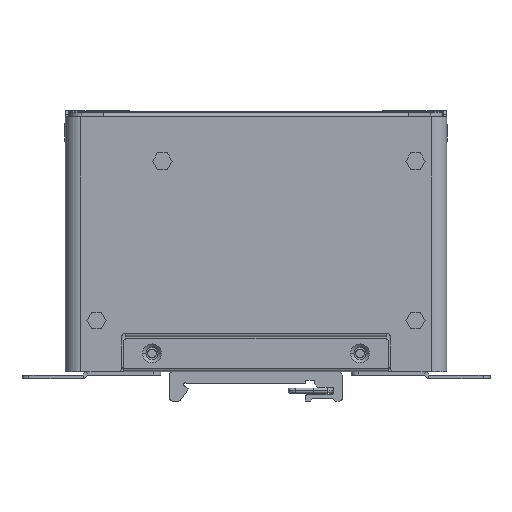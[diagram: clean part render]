
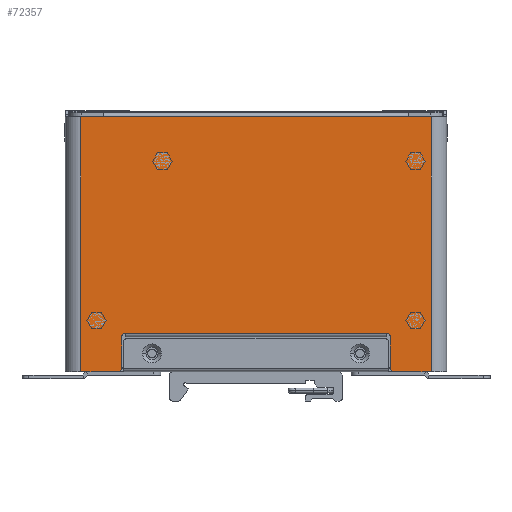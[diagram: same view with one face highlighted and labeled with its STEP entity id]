
A CAD part, front view. The second image highlights one B-rep face of the part: STEP entity #72357.
In plain terms, the highlighted planar face has unit normal (0, -1, 0) as drawn and (0, 1, 0) by its records, which use the part's own axes.
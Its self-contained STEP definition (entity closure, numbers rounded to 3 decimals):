
#67346=CARTESIAN_POINT('',(-37.75,1.,-26.9));
#67347=DIRECTION('',(0.,-1.,0.));
#67348=DIRECTION('',(0.,0.,1.));
#67349=AXIS2_PLACEMENT_3D('',#67346,#67347,#67348);
#67483=CARTESIAN_POINT('',(37.75,1.,-26.9));
#67484=DIRECTION('',(0.,-1.,0.));
#67485=DIRECTION('',(1.,0.,0.));
#67486=AXIS2_PLACEMENT_3D('',#67483,#67484,#67485);
#67527=DIRECTION('',(0.,0.,1.));
#67528=VECTOR('',#67527,73.5);
#67529=CARTESIAN_POINT('',(50.5,1.,-36.9));
#67530=LINE('',#67529,#67528);
#68045=DIRECTION('',(1.,0.,0.));
#68046=VECTOR('',#68045,6.5);
#68047=CARTESIAN_POINT('',(44.,1.,36.6));
#68048=LINE('',#68047,#68046);
#68059=CARTESIAN_POINT('',(-39.75,1.,-35.9));
#68060=DIRECTION('',(0.,1.,0.));
#68061=DIRECTION('',(1.,0.,0.));
#68062=AXIS2_PLACEMENT_3D('',#68059,#68060,#68061);
#68067=DIRECTION('',(0.,0.,1.));
#68068=VECTOR('',#68067,9.);
#68069=CARTESIAN_POINT('',(-38.75,1.,-35.9));
#68070=LINE('',#68069,#68068);
#68074=DIRECTION('',(0.,0.,1.));
#68075=VECTOR('',#68074,9.);
#68076=CARTESIAN_POINT('',(38.75,1.,-35.9));
#68077=LINE('',#68076,#68075);
#68081=CARTESIAN_POINT('',(39.75,1.,-35.9));
#68082=DIRECTION('',(0.,1.,0.));
#68083=DIRECTION('',(0.,0.,-1.));
#68084=AXIS2_PLACEMENT_3D('',#68081,#68082,#68083);
#68089=DIRECTION('',(-1.,0.,0.));
#68090=VECTOR('',#68089,10.75);
#68091=CARTESIAN_POINT('',(50.5,1.,-36.9));
#68092=LINE('',#68091,#68090);
#68096=DIRECTION('',(-1.,0.,0.));
#68097=VECTOR('',#68096,10.75);
#68098=CARTESIAN_POINT('',(-39.75,1.,-36.9));
#68099=LINE('',#68098,#68097);
#68111=DIRECTION('',(1.,0.,0.));
#68112=VECTOR('',#68111,75.5);
#68113=CARTESIAN_POINT('',(-37.75,1.,-25.9));
#68114=LINE('',#68113,#68112);
#68133=DIRECTION('',(-1.,0.,0.));
#68134=VECTOR('',#68133,88.);
#68135=CARTESIAN_POINT('',(44.,1.,36.6));
#68136=LINE('',#68135,#68134);
#70446=DIRECTION('',(1.,0.,0.));
#70447=VECTOR('',#70446,6.5);
#70448=CARTESIAN_POINT('',(-50.5,1.,36.6));
#70449=LINE('',#70448,#70447);
#70527=DIRECTION('',(0.,0.,-1.));
#70528=VECTOR('',#70527,73.5);
#70529=CARTESIAN_POINT('',(-50.5,1.,36.6));
#70530=LINE('',#70529,#70528);
#70997=CARTESIAN_POINT('',(-44.,1.,36.6));
#70998=VERTEX_POINT('',#70997);
#70999=CARTESIAN_POINT('',(44.,1.,36.6));
#71000=VERTEX_POINT('',#70999);
#71050=CARTESIAN_POINT('',(-50.5,1.,-36.9));
#71052=VERTEX_POINT('',#71050);
#71058=CARTESIAN_POINT('',(50.5,1.,-36.9));
#71060=VERTEX_POINT('',#71058);
#71074=CARTESIAN_POINT('',(-50.5,1.,36.6));
#71076=VERTEX_POINT('',#71074);
#71078=CARTESIAN_POINT('',(50.5,1.,36.6));
#71080=VERTEX_POINT('',#71078);
#71501=CARTESIAN_POINT('',(37.75,1.,-25.9));
#71502=VERTEX_POINT('',#71501);
#71504=CARTESIAN_POINT('',(38.75,1.,-26.9));
#71506=VERTEX_POINT('',#71504);
#71508=CARTESIAN_POINT('',(-38.75,1.,-26.9));
#71510=VERTEX_POINT('',#71508);
#71511=CARTESIAN_POINT('',(-37.75,1.,-25.9));
#71512=VERTEX_POINT('',#71511);
#71517=CARTESIAN_POINT('',(-38.75,1.,-35.9));
#71518=VERTEX_POINT('',#71517);
#71519=CARTESIAN_POINT('',(-39.75,1.,-36.9));
#71520=VERTEX_POINT('',#71519);
#71525=CARTESIAN_POINT('',(39.75,1.,-36.9));
#71526=VERTEX_POINT('',#71525);
#71527=CARTESIAN_POINT('',(38.75,1.,-35.9));
#71528=VERTEX_POINT('',#71527);
#72331=CARTESIAN_POINT('',(0.,1.,0.));
#72332=DIRECTION('',(0.,1.,0.));
#72333=DIRECTION('',(1.,0.,0.));
#72334=AXIS2_PLACEMENT_3D('',#72331,#72332,#72333);
#72335=PLANE('',#72334);
#72336=ORIENTED_EDGE('',*,*,#71645,.F.);
#72337=ORIENTED_EDGE('',*,*,#71661,.T.);
#72338=ORIENTED_EDGE('',*,*,#71675,.F.);
#72340=ORIENTED_EDGE('',*,*,#72339,.T.);
#72341=ORIENTED_EDGE('',*,*,#71813,.F.);
#72342=ORIENTED_EDGE('',*,*,#71825,.F.);
#72343=ORIENTED_EDGE('',*,*,#71840,.F.);
#72344=ORIENTED_EDGE('',*,*,#71855,.F.);
#72345=ORIENTED_EDGE('',*,*,#71882,.T.);
#72346=ORIENTED_EDGE('',*,*,#72322,.F.);
#72348=ORIENTED_EDGE('',*,*,#72347,.T.);
#72350=ORIENTED_EDGE('',*,*,#72349,.F.);
#72352=ORIENTED_EDGE('',*,*,#72351,.T.);
#72354=ORIENTED_EDGE('',*,*,#72353,.F.);
#72355=EDGE_LOOP('',(#72336,#72337,#72338,#72340,#72341,#72342,#72343,#72344,
#72345,#72346,#72348,#72350,#72352,#72354));
#72356=FACE_OUTER_BOUND('',#72355,.F.);
#72357=ADVANCED_FACE('',(#72356),#72335,.T.);
#67350=CIRCLE('',#67349,1.);
#67487=CIRCLE('',#67486,1.);
#68063=CIRCLE('',#68062,1.);
#68085=CIRCLE('',#68084,1.);
#71645=EDGE_CURVE('',#71518,#71520,#68063,.T.);
#71661=EDGE_CURVE('',#71518,#71510,#68070,.T.);
#71675=EDGE_CURVE('',#71512,#71510,#67350,.T.);
#71813=EDGE_CURVE('',#71506,#71502,#67487,.T.);
#71825=EDGE_CURVE('',#71528,#71506,#68077,.T.);
#71840=EDGE_CURVE('',#71526,#71528,#68085,.T.);
#71855=EDGE_CURVE('',#71060,#71526,#68092,.T.);
#71882=EDGE_CURVE('',#71060,#71080,#67530,.T.);
#72322=EDGE_CURVE('',#71000,#71080,#68048,.T.);
#72339=EDGE_CURVE('',#71512,#71502,#68114,.T.);
#72347=EDGE_CURVE('',#71000,#70998,#68136,.T.);
#72349=EDGE_CURVE('',#71076,#70998,#70449,.T.);
#72351=EDGE_CURVE('',#71076,#71052,#70530,.T.);
#72353=EDGE_CURVE('',#71520,#71052,#68099,.T.);
